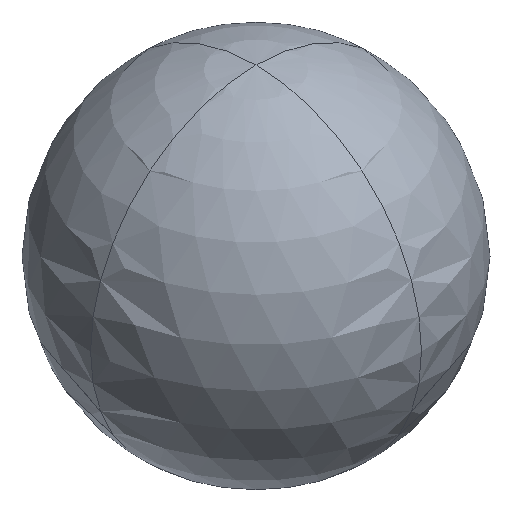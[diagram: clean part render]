
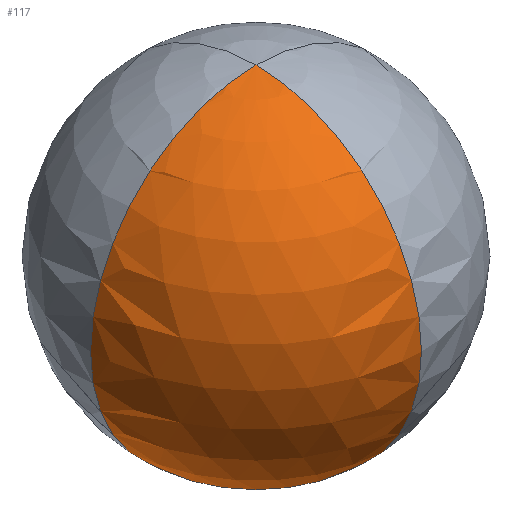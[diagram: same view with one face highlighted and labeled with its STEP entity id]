
A CAD part, isometric view. The second image highlights one B-rep face of the part: STEP entity #117.
In plain terms, the highlighted spherical face has radius 87.312 mm.
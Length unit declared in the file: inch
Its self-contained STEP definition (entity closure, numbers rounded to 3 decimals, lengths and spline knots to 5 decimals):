
#55=CARTESIAN_POINT('',(0.0,0.,3.4375));
#56=VERTEX_POINT('',#55);
#57=CARTESIAN_POINT('',(0.0,0.0,-3.4375));
#58=VERTEX_POINT('',#57);
#59=CARTESIAN_POINT('',(0.0,0.0,0.0));
#60=DIRECTION('',(0.0,-1.0,0.0));
#61=DIRECTION('',(0.0,0.0,1.0));
#62=AXIS2_PLACEMENT_3D('',#59,#60,#61);
#63=CIRCLE('',#62,3.4375);
#64=EDGE_CURVE('',#56,#58,#63,.T.);
#98=CARTESIAN_POINT('',(0.0,0.0,0.0));
#99=DIRECTION('',(-1.0,0.0,0.0));
#100=DIRECTION('',(0.0,0.0,-1.0));
#101=AXIS2_PLACEMENT_3D('',#98,#99,#100);
#102=CIRCLE('',#101,3.4375);
#103=EDGE_CURVE('',#58,#56,#102,.T.);
#108=CARTESIAN_POINT('',(0.0,0.0,0.0));
#109=DIRECTION('',(0.0,0.0,1.0));
#110=DIRECTION('',(1.0,0.0,0.0));
#111=AXIS2_PLACEMENT_3D('',#108,#109,#110);
#112=SPHERICAL_SURFACE('',#111,3.4375);
#113=ORIENTED_EDGE('',*,*,#64,.T.);
#114=ORIENTED_EDGE('',*,*,#103,.T.);
#115=EDGE_LOOP('',(#113,#114));
#116=FACE_OUTER_BOUND('',#115,.T.);
#117=ADVANCED_FACE('',(#116),#112,.T.);
